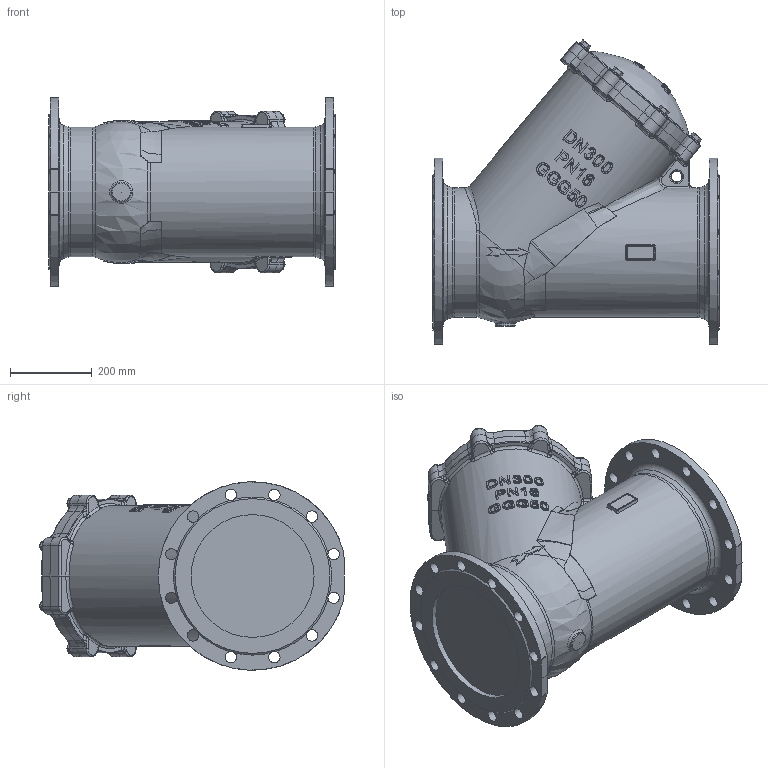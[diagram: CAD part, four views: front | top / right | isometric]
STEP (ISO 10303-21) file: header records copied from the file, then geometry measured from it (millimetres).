
FILE_DESCRIPTION (( 'STEP AP214' ), '1' );
FILE_NAME ('DN300.STEP', '2026-09-15T13:18:15', ( '' ), ( '' ), 'SwSTEP 2.0', 'SolidWorks 2024', '' );
FILE_SCHEMA (( 'AUTOMOTIVE_DESIGN' ));
Length unit declared in the file: millimetre
Products named in the file (1): DN300
Bounding box: 700 x 743.61 x 460 mm (x, y, z)
Volume: 93232208.6 mm3; surface area: 1950978.6 mm2
Topology: 1 solids, 16 shells, 1473 faces, 3897 edges, 2479 vertices
Faces by surface type: bspline 821, plane 275, cylinder 184, cone 99, torus 56, sphere 38
Full cylindrical faces by diameter (mm): 16 x8, 17.5 x8, 28 x24, 30 x8, 48 x1, 300 x2, 316 x2
Entity records: 117078 total; most frequent: CARTESIAN_POINT 75444, ORIENTED_EDGE 7362, EDGE_CURVE 3681, DIRECTION 3177, B_SPLINE_CURVE_WITH_KNOTS 2442, VERTEX_POINT 2382, EDGE_LOOP 1699, FACE_OUTER_BOUND 1538
